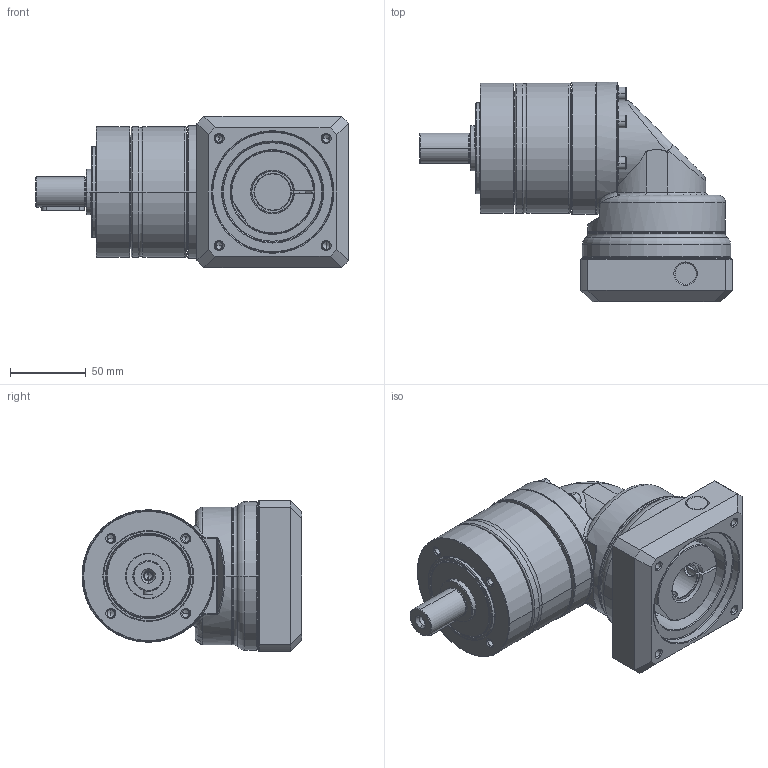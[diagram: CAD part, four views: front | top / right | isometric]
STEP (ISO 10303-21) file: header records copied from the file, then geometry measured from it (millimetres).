
FILE_DESCRIPTION((''),'2;1');
FILE_NAME('PG2R-080_1ST_24-P0411500101_ASM','2016-04-21T',('d01943'),(''),'PRO/ENGINEER BY PARAMETRIC TECHNOLOGY CORPORATION, 2008410','PRO/ENGINEER BY PARAMETRIC TECHNOLOGY CORPORATION, 2008410','');
FILE_SCHEMA(('CONFIG_CONTROL_DESIGN'));
Length unit declared in the file: millimetre
Products named in the file (12): P1325310001; P0250300001; P0350301103; P1349300001; P1017300001; P0713302001; P0503500008; P1350300201; P0411500101; P1702500001; 2111BA05025; PG2R-080_1ST_24-P0411500101_ASM
Assembly tree (16 placements, depth 2):
  PG2R-080_1ST_24-P0411500101_ASM
    P1325310001
    P0250300001
    P0350301103
    P1349300001
    P1017300001
    P0713302001
    P0503500008
    P1350300201
    P0411500101
    P1702500001
    2111BA05025  x6
Bounding box: 206.5 x 145.25 x 100 mm (x, y, z)
Volume: 832043.3 mm3; surface area: 205937.1 mm2
Topology: 16 solids, 17 shells, 790 faces, 1736 edges, 1002 vertices
Faces by surface type: cylinder 246, cone 224, plane 190, torus 98, bspline 32
Entity records: 23064 total; most frequent: CARTESIAN_POINT 9018, DIRECTION 3125, ORIENTED_EDGE 2704, EDGE_CURVE 1352, AXIS2_PLACEMENT_3D 1316, VERTEX_POINT 802, EDGE_LOOP 708, CIRCLE 695
